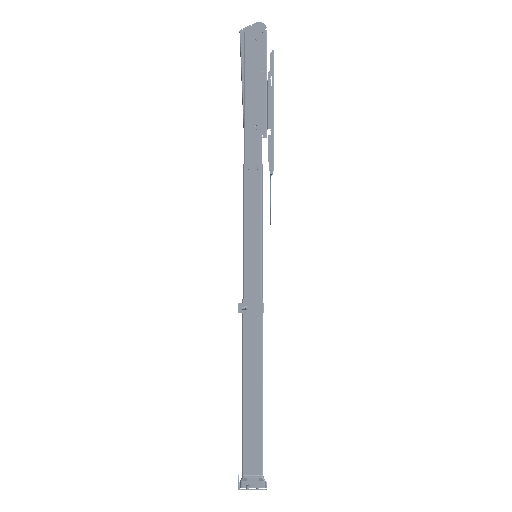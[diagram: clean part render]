
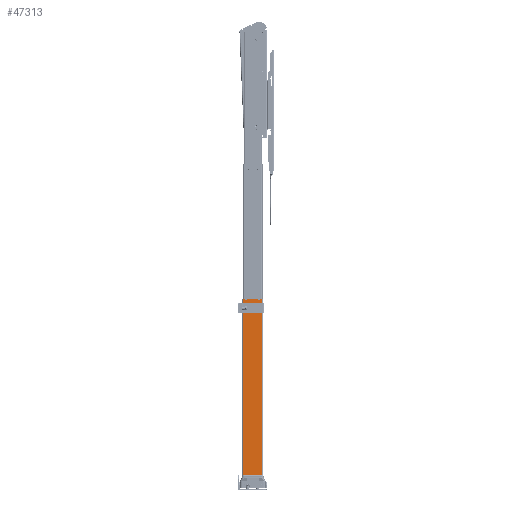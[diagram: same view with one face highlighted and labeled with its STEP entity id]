
A CAD part, left-side view. The second image highlights one B-rep face of the part: STEP entity #47313.
In plain terms, the highlighted planar face has unit normal (-1, 0, 0) as drawn and (0, -1, 0) by its records, which use the part's own axes.
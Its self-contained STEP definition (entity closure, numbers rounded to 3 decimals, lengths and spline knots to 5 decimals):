
#157=ELLIPSE('',#54472,0.02082,0.008);
#162=ELLIPSE('',#54479,0.02082,0.008);
#6159=LINE('',#83486,#10412);
#6431=LINE('',#84185,#10684);
#6434=LINE('',#84193,#10687);
#6437=LINE('',#84201,#10690);
#6439=LINE('',#84205,#10692);
#6441=LINE('',#84209,#10694);
#6444=LINE('',#84217,#10697);
#6447=LINE('',#84225,#10700);
#6449=LINE('',#84229,#10702);
#6493=LINE('',#84341,#10746);
#6494=LINE('',#84343,#10747);
#6496=LINE('',#84346,#10749);
#10412=VECTOR('',#66686,1.);
#10684=VECTOR('',#67318,1.);
#10687=VECTOR('',#67327,1.);
#10690=VECTOR('',#67336,1.);
#10692=VECTOR('',#67340,1.);
#10694=VECTOR('',#67344,1.);
#10697=VECTOR('',#67353,1.);
#10700=VECTOR('',#67362,1.);
#10702=VECTOR('',#67366,1.);
#10746=VECTOR('',#67482,1.);
#10747=VECTOR('',#67485,1.);
#10749=VECTOR('',#67489,1.);
#23260=ORIENTED_EDGE('',*,*,#29909,.T.);
#23261=ORIENTED_EDGE('',*,*,#29906,.T.);
#23262=ORIENTED_EDGE('',*,*,#29902,.T.);
#23263=ORIENTED_EDGE('',*,*,#30334,.F.);
#23264=ORIENTED_EDGE('',*,*,#30275,.T.);
#23265=ORIENTED_EDGE('',*,*,#30273,.T.);
#23266=ORIENTED_EDGE('',*,*,#30271,.F.);
#23267=ORIENTED_EDGE('',*,*,#30269,.T.);
#23268=ORIENTED_EDGE('',*,*,#30267,.F.);
#23269=ORIENTED_EDGE('',*,*,#30265,.T.);
#23270=ORIENTED_EDGE('',*,*,#30263,.T.);
#23271=ORIENTED_EDGE('',*,*,#30261,.T.);
#23272=ORIENTED_EDGE('',*,*,#30259,.F.);
#23273=ORIENTED_EDGE('',*,*,#30257,.T.);
#23274=ORIENTED_EDGE('',*,*,#30255,.F.);
#23275=ORIENTED_EDGE('',*,*,#30253,.T.);
#23276=ORIENTED_EDGE('',*,*,#30331,.T.);
#23277=ORIENTED_EDGE('',*,*,#30332,.T.);
#29902=EDGE_CURVE('',#34542,#34540,#157,.F.);
#29906=EDGE_CURVE('',#34543,#34542,#6159,.T.);
#29909=EDGE_CURVE('',#34545,#34543,#162,.F.);
#30253=EDGE_CURVE('',#34783,#34782,#6431,.T.);
#30255=EDGE_CURVE('',#34783,#34784,#36799,.T.);
#30257=EDGE_CURVE('',#34785,#34784,#6434,.T.);
#30259=EDGE_CURVE('',#34785,#34786,#36800,.T.);
#30261=EDGE_CURVE('',#34787,#34786,#6437,.T.);
#30263=EDGE_CURVE('',#34788,#34787,#6439,.T.);
#30265=EDGE_CURVE('',#34789,#34788,#6441,.T.);
#30267=EDGE_CURVE('',#34789,#34790,#36801,.T.);
#30269=EDGE_CURVE('',#34791,#34790,#6444,.T.);
#30271=EDGE_CURVE('',#34791,#34792,#36802,.T.);
#30273=EDGE_CURVE('',#34793,#34792,#6447,.T.);
#30275=EDGE_CURVE('',#34794,#34793,#6449,.T.);
#30331=EDGE_CURVE('',#34782,#34825,#6493,.T.);
#30332=EDGE_CURVE('',#34825,#34545,#6494,.T.);
#30334=EDGE_CURVE('',#34794,#34540,#6496,.T.);
#34540=VERTEX_POINT('',#83477);
#34542=VERTEX_POINT('',#83480);
#34543=VERTEX_POINT('',#83485);
#34545=VERTEX_POINT('',#83497);
#34782=VERTEX_POINT('',#84184);
#34783=VERTEX_POINT('',#84186);
#34784=VERTEX_POINT('',#84190);
#34785=VERTEX_POINT('',#84194);
#34786=VERTEX_POINT('',#84198);
#34787=VERTEX_POINT('',#84202);
#34788=VERTEX_POINT('',#84206);
#34789=VERTEX_POINT('',#84210);
#34790=VERTEX_POINT('',#84214);
#34791=VERTEX_POINT('',#84218);
#34792=VERTEX_POINT('',#84222);
#34793=VERTEX_POINT('',#84226);
#34794=VERTEX_POINT('',#84230);
#34825=VERTEX_POINT('',#84340);
#36799=CIRCLE('',#54658,0.0005);
#36800=CIRCLE('',#54661,0.0005);
#36801=CIRCLE('',#54666,0.0005);
#36802=CIRCLE('',#54669,0.0005);
#39969=EDGE_LOOP('',(#23260,#23261,#23262,#23263,#23264,#23265,#23266,#23267,
#23268,#23269,#23270,#23271,#23272,#23273,#23274,#23275,#23276,#23277));
#43228=FACE_BOUND('',#39969,.T.);
#44783=PLANE('',#54709);
#47313=ADVANCED_FACE('',(#43228),#44783,.T.);
#54472=AXIS2_PLACEMENT_3D('',#83479,#66676,#66677);
#54479=AXIS2_PLACEMENT_3D('',#83499,#66691,#66692);
#54658=AXIS2_PLACEMENT_3D('',#84189,#67322,#67323);
#54661=AXIS2_PLACEMENT_3D('',#84197,#67331,#67332);
#54666=AXIS2_PLACEMENT_3D('',#84213,#67348,#67349);
#54669=AXIS2_PLACEMENT_3D('',#84221,#67357,#67358);
#54709=AXIS2_PLACEMENT_3D('',#84345,#67487,#67488);
#66676=DIRECTION('',(0.,-1.,0.));
#66677=DIRECTION('',(0.197,0.,-0.98));
#66686=DIRECTION('',(1.,0.,0.));
#66691=DIRECTION('',(0.,-1.,0.));
#66692=DIRECTION('',(0.197,0.,0.98));
#67318=DIRECTION('',(0.,0.,1.));
#67322=DIRECTION('',(0.,-1.,0.));
#67323=DIRECTION('',(1.,0.,0.));
#67327=DIRECTION('',(-1.,0.,0.));
#67331=DIRECTION('',(0.,-1.,0.));
#67332=DIRECTION('',(1.,0.,0.));
#67336=DIRECTION('',(0.,0.,-1.));
#67340=DIRECTION('',(-1.,0.,0.));
#67344=DIRECTION('',(0.,0.,1.));
#67348=DIRECTION('',(0.,-1.,0.));
#67349=DIRECTION('',(1.,0.,0.));
#67353=DIRECTION('',(-1.,0.,0.));
#67357=DIRECTION('',(0.,-1.,0.));
#67358=DIRECTION('',(1.,0.,0.));
#67362=DIRECTION('',(0.,0.,-1.));
#67366=DIRECTION('',(-1.,0.,0.));
#67482=DIRECTION('',(-1.,0.,0.));
#67485=DIRECTION('',(0.,0.,-1.));
#67487=DIRECTION('',(0.,-1.,0.));
#67488=DIRECTION('',(-1.,0.,0.));
#67489=DIRECTION('',(0.,0.,-1.));
#83477=CARTESIAN_POINT('',(0.035,0.0039,0.04606));
#83479=CARTESIAN_POINT('',(0.03471,0.0039,0.0275));
#83480=CARTESIAN_POINT('',(0.03415,0.0039,0.0468));
#83485=CARTESIAN_POINT('',(-0.03415,0.0039,0.0468));
#83486=CARTESIAN_POINT('',(-0.03415,0.0039,0.0468));
#83497=CARTESIAN_POINT('',(-0.035,0.0039,0.04606));
#83499=CARTESIAN_POINT('',(-0.03471,0.0039,0.0275));
#84184=CARTESIAN_POINT('',(-0.02725,0.0039,0.6992));
#84185=CARTESIAN_POINT('',(-0.02725,0.0039,0.37263));
#84186=CARTESIAN_POINT('',(-0.02725,0.0039,0.6981));
#84189=CARTESIAN_POINT('',(-0.02675,0.0039,0.6981));
#84190=CARTESIAN_POINT('',(-0.02675,0.0039,0.6976));
#84193=CARTESIAN_POINT('',(0.,0.0039,0.6976));
#84194=CARTESIAN_POINT('',(-0.02125,0.0039,0.6976));
#84197=CARTESIAN_POINT('',(-0.02125,0.0039,0.6981));
#84198=CARTESIAN_POINT('',(-0.02075,0.0039,0.6981));
#84201=CARTESIAN_POINT('',(-0.02075,0.0039,0.37263));
#84202=CARTESIAN_POINT('',(-0.02075,0.0039,0.6992));
#84205=CARTESIAN_POINT('',(0.,0.0039,0.6992));
#84206=CARTESIAN_POINT('',(0.02075,0.0039,0.6992));
#84209=CARTESIAN_POINT('',(0.02075,0.0039,0.37263));
#84210=CARTESIAN_POINT('',(0.02075,0.0039,0.6981));
#84213=CARTESIAN_POINT('',(0.02125,0.0039,0.6981));
#84214=CARTESIAN_POINT('',(0.02125,0.0039,0.6976));
#84217=CARTESIAN_POINT('',(0.,0.0039,0.6976));
#84218=CARTESIAN_POINT('',(0.02675,0.0039,0.6976));
#84221=CARTESIAN_POINT('',(0.02675,0.0039,0.6981));
#84222=CARTESIAN_POINT('',(0.02725,0.0039,0.6981));
#84225=CARTESIAN_POINT('',(0.02725,0.0039,0.37263));
#84226=CARTESIAN_POINT('',(0.02725,0.0039,0.6992));
#84229=CARTESIAN_POINT('',(0.,0.0039,0.6992));
#84230=CARTESIAN_POINT('',(0.035,0.0039,0.6992));
#84340=CARTESIAN_POINT('',(-0.035,0.0039,0.6992));
#84341=CARTESIAN_POINT('',(-0.02725,0.0039,0.6992));
#84343=CARTESIAN_POINT('',(-0.035,0.0039,0.6992));
#84345=CARTESIAN_POINT('',(0.,0.0039,0.37263));
#84346=CARTESIAN_POINT('',(0.035,0.0039,0.6992));
